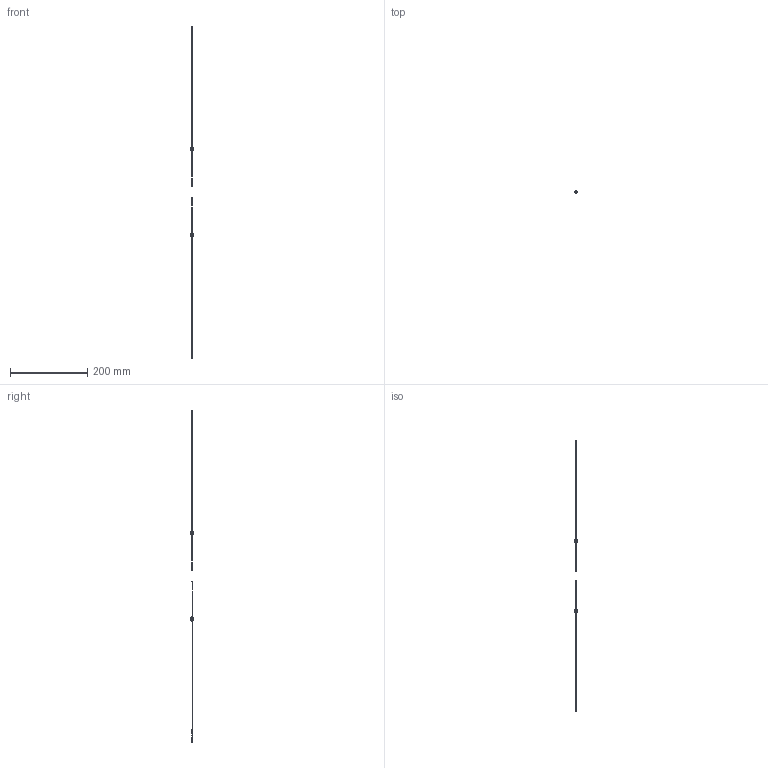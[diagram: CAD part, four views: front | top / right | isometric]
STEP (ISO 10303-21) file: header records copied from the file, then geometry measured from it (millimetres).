
FILE_DESCRIPTION (( 'STEP AP214' ), '1' );
FILE_NAME ('FTS-320-05.STEP', '2019-06-18T02:43:07', ( '' ), ( '' ), 'SwSTEP 2.0', 'SolidWorks 2018', '' );
FILE_SCHEMA (( 'AUTOMOTIVE_DESIGN' ));
Length unit declared in the file: millimetre
Products named in the file (1): FTS-320-05
Bounding box: 6.5 x 6.5 x 858 mm (x, y, z)
Volume: 1297.4 mm3; surface area: 4333.2 mm2
Topology: 12 solids, 12 shells, 572 faces, 1472 edges, 940 vertices
Faces by surface type: cylinder 252, plane 212, cone 78, bspline 18, torus 12
Entity records: 29655 total; most frequent: CARTESIAN_POINT 16351, ORIENTED_EDGE 2944, DIRECTION 2504, EDGE_CURVE 1472, AXIS2_PLACEMENT_3D 965, VERTEX_POINT 940, EDGE_LOOP 608, LINE 574
